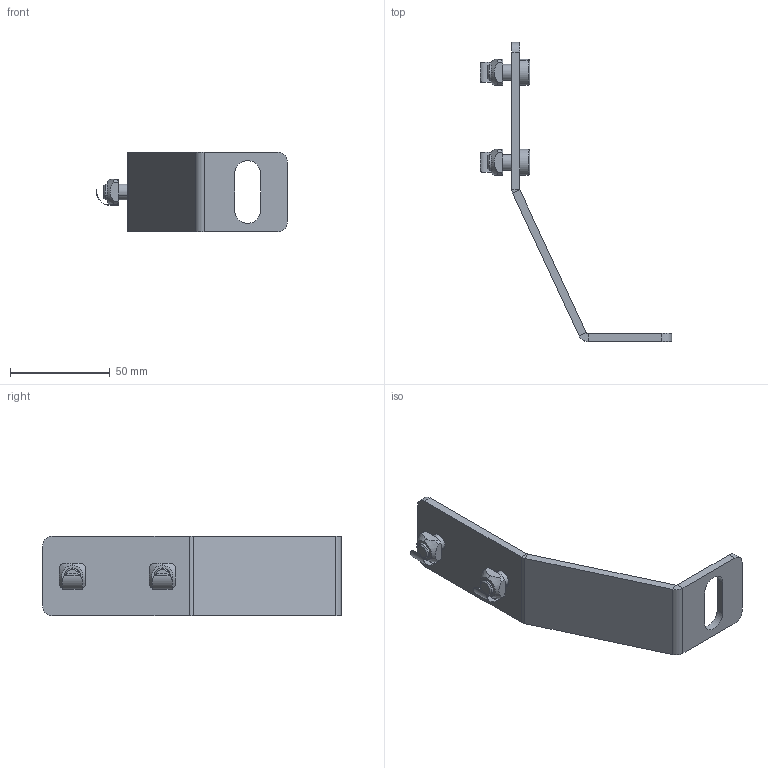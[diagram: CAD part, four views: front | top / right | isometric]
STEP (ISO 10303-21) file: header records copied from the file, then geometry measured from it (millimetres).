
FILE_DESCRIPTION (( 'STEP AP214' ), '1' );
FILE_NAME ('1.5032 Lattiakiinnityskulma.STEP', '2025-09-16T09:51:15', ( '' ), ( '' ), 'SwSTEP 2.0', 'SolidWorks 2025', '' );
FILE_SCHEMA (( 'AUTOMOTIVE_DESIGN' ));
Length unit declared in the file: millimetre
Products named in the file (1): 1.5032 Lattiakiinnityskulma
Bounding box: 95.72 x 149.81 x 40 mm (x, y, z)
Volume: 33765 mm3; surface area: 20738.4 mm2
Topology: 5 solids, 5 shells, 155 faces, 371 edges, 226 vertices
Faces by surface type: plane 94, cylinder 35, cone 18, torus 8
Entity records: 6395 total; most frequent: CARTESIAN_POINT 1031, DIRECTION 753, ORIENTED_EDGE 734, EDGE_CURVE 367, AXIS2_PLACEMENT_3D 268, VERTEX_POINT 226, LINE 217, VECTOR 217
